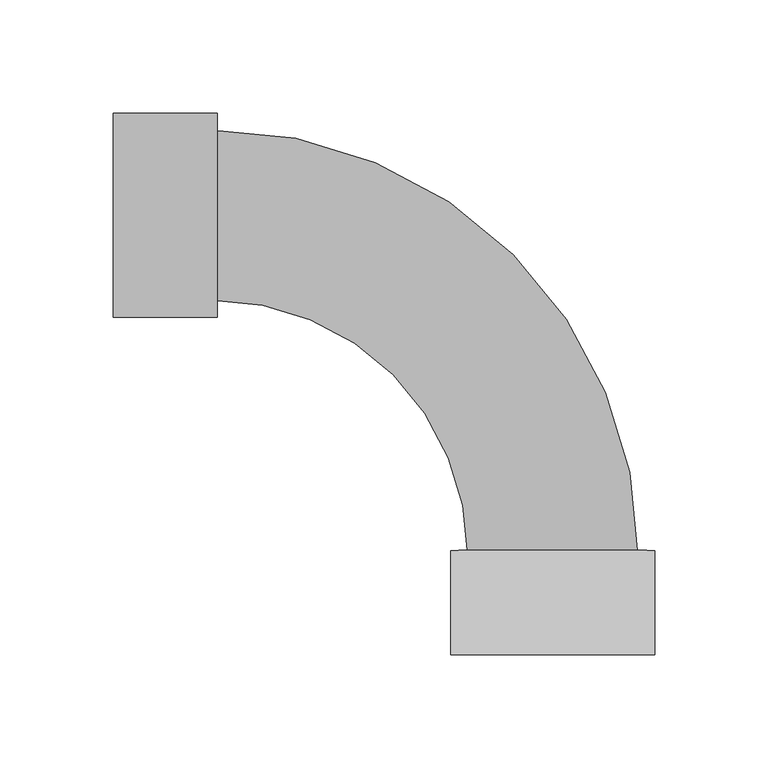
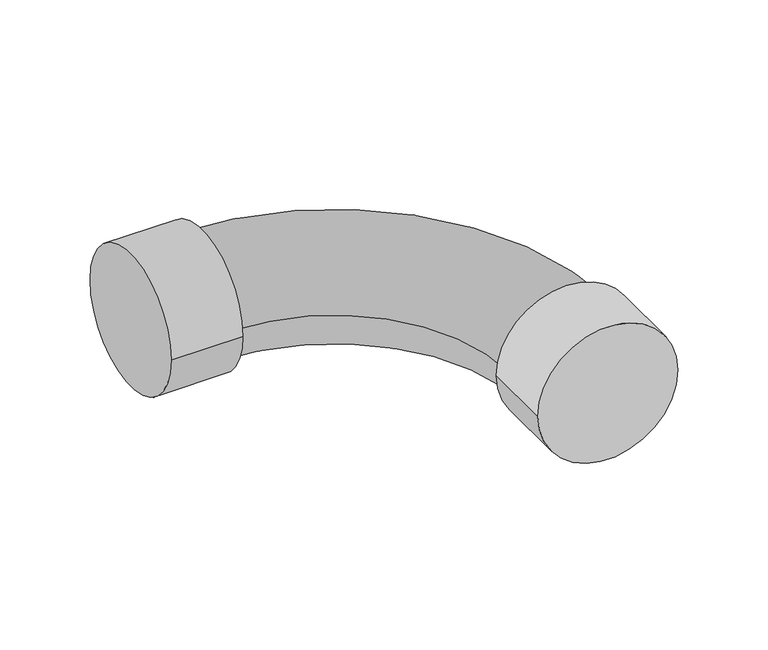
"""IFC4 building model written with IfcOpenShell, lengths in millimetres: pipe fitting geometry, 01051159 : Courbes à 90º  FxF."""

from ifc_helpers import new_model, si_unit, point, frame, origin, origin_2d, place, context, project, spatial, circle_curve, ellipse_curve, trimmed, segment, composite_curve, outline, extrude, source, transform, mapped, element, save
from ifc_brep_helpers import plane_surface, revolved_surface, advanced_brep


def pipe_fitting_69615be7(model_context):
    return source(origin(), model_context, "Body", "SolidModel", [
        extrude(outline(composite_curve([segment(trimmed(circle_curve(origin_2d(), 45.0), [point((45.0, 0.0))], [point((-45.0, 0.0))], False, "CARTESIAN"), True, "CONTINUOUS"), segment(trimmed(circle_curve(origin_2d(), 45.0), [point((-45.0, 0.0))], [point((45.0, 0.0))], False, "CARTESIAN"), True, "CONTINUOUS")], self_intersect=False)), frame((-194.0, 0.0, 0.0), z_axis=(1.0, 0.0, 0.0), x_axis=(0.0, 1.0, 0.0)), (0.0, 0.0, 1.0), 46.0),
        extrude(outline(composite_curve([segment(trimmed(circle_curve(origin_2d(), 45.0), [point((0.0, -45.0))], [point((0.0, 45.0))], False, "CARTESIAN"), True, "CONTINUOUS"), segment(trimmed(circle_curve(origin_2d(), 45.0), [point((0.0, 45.0))], [point((0.0, -45.0))], False, "CARTESIAN"), True, "CONTINUOUS")], self_intersect=False)), frame((0.0, -194.0, 0.0), z_axis=(0.0, 1.0, 0.0), x_axis=(0.0, 0.0, 1.0)), (0.0, 0.0, 1.0), 46.0),
        advanced_brep(
        [(-37.5, -150.0, 0.0), (37.5, -150.0, 0.0), (-150.0, -37.5, 0.0), (-150.0, 37.5, 0.0)],
        [
            (0, 1, circle_curve(frame((0.0, -150.0, 0.0), z_axis=(0.0, -1.0, 0.0), x_axis=(1.0, 0.0, 0.0)), 37.5)),
            (1, 0, circle_curve(frame((0.0, -150.0, 0.0), z_axis=(0.0, -1.0, 0.0), x_axis=(1.0, 0.0, 0.0)), 37.5)),
            (2, 3, circle_curve(frame((-150.0, 0.0, 0.0), z_axis=(-1.0, 0.0, 0.0), x_axis=(0.0, 1.0, 0.0)), 37.5)),
            (3, 2, circle_curve(frame((-150.0, 0.0, 0.0), z_axis=(-1.0, 0.0, 0.0), x_axis=(0.0, 1.0, 0.0)), 37.5)),
            (2, 0, circle_curve(frame((-150.0, -150.0, 0.0), z_axis=(0.0, 0.0, -1.0), x_axis=(1.0, 0.0, 0.0)), 112.5)),
            (1, 3, circle_curve(frame((-150.0, -150.0, 0.0), z_axis=(0.0, 0.0, 1.0), x_axis=(1.0, 0.0, 0.0)), 187.5)),
        ],
        [
            plane_surface(frame((0.0, -150.0, 0.0), z_axis=(0.0, -1.0, 0.0), x_axis=(0.0, 0.0, 1.0))),
            plane_surface(frame((-150.0, 0.0, 0.0), z_axis=(-1.0, 0.0, 0.0), x_axis=(0.0, 0.0, 1.0))),
            revolved_surface(trimmed(ellipse_curve(frame((0.0, -150.0, 0.0), z_axis=(0.0, 1.0, 0.0), x_axis=(1.0, 0.0, 0.0)), 37.5, 37.5), [point((-37.5, -150.0, 0.0))], [point((37.5, -150.0, 0.0))], True, "CARTESIAN"), (-150.0, -150.0, 0.0), (0.0, 0.0, -1.0)),
            revolved_surface(trimmed(ellipse_curve(frame((0.0, -150.0, 0.0), z_axis=(0.0, 1.0, 0.0), x_axis=(1.0, 0.0, 0.0)), 37.5, 37.5), [point((37.5, -150.0, 0.0))], [point((-37.5, -150.0, 0.0))], True, "CARTESIAN"), (-150.0, -150.0, 0.0), (0.0, 0.0, -1.0)),
        ],
        [
            (0, [[1, 2]]),
            (1, [[3, 4]]),
            (2, [[-3, 5, -2, 6]]),
            (3, [[-4, -6, -1, -5]]),
        ],
    ),
    ])


if __name__ == "__main__":
    model = new_model("IFC4")
    model_context = context("Model", 3, world=origin())
    ifc_project = project(units=[si_unit("LENGTHUNIT", "METRE", prefix="MILLI")], contexts=[model_context])
    site = spatial("IfcSite", under=ifc_project)
    building = spatial("IfcBuilding", under=site)
    placement = place(None, origin())
    pipe_fitting_shape = pipe_fitting_69615be7(model_context)
    element("IfcPipeFitting", 1, ObjectType="01051159 : Courbes à 90º  FxF", at=placement, inside=building, context=model_context, shape_type="MappedRepresentation", body=[
        mapped(pipe_fitting_shape, transform((0.0, 0.0, 0.0), x_axis=(1.0, 0.0, 0.0), y_axis=(0.0, 1.0, 0.0), z_axis=(0.0, 0.0, 1.0))),
    ])
    save(model, "model.ifc")
